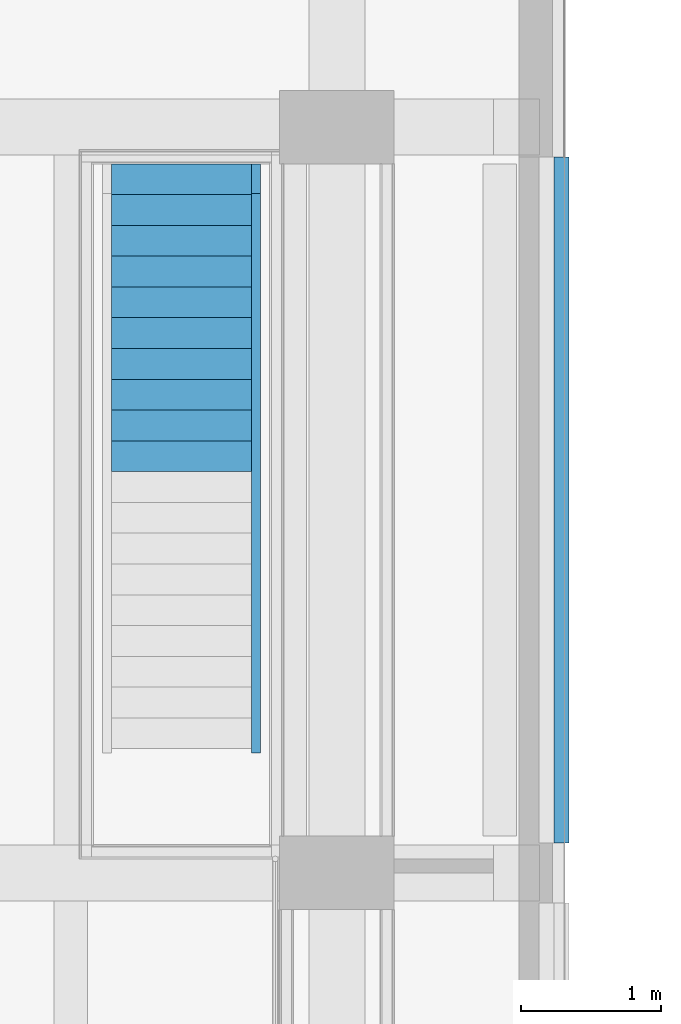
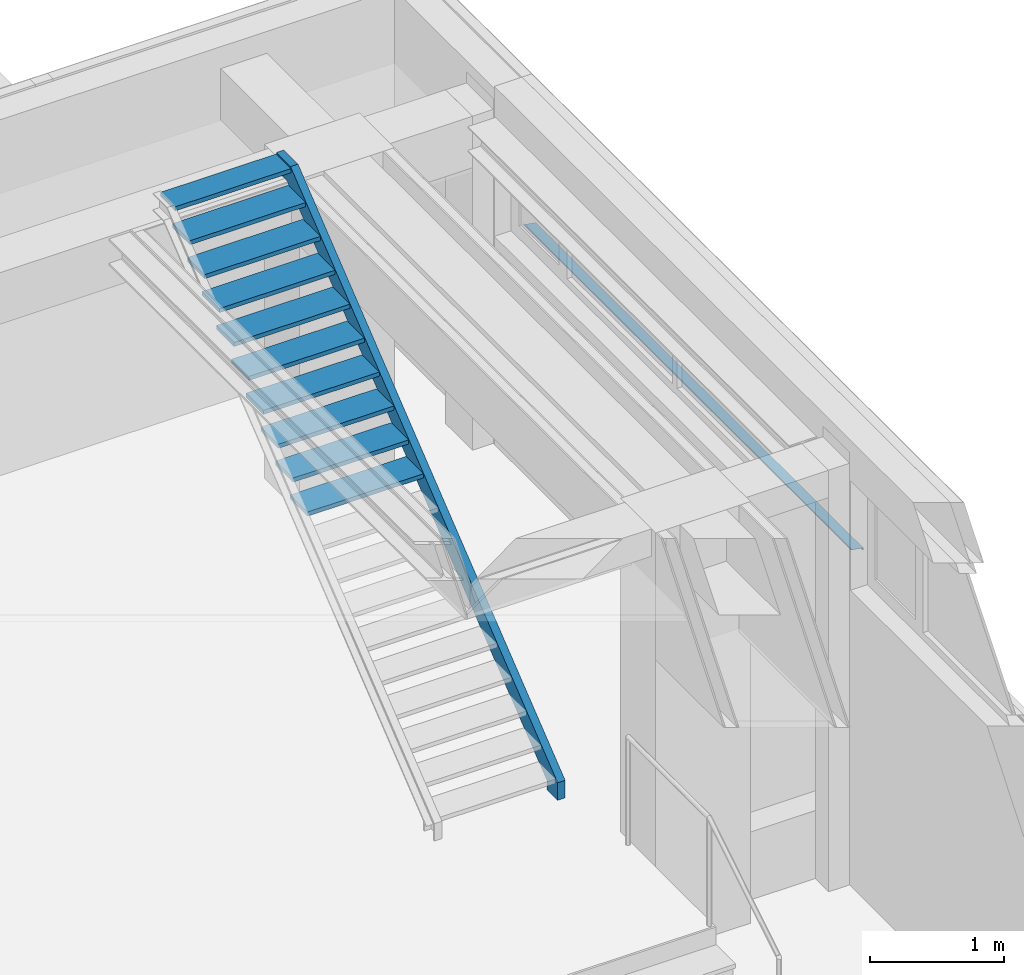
# One storey, part 66 of 135: 11 members, 1 beam, 1 element without a shape of its own.
"""IFC2X3 building model written with IfcOpenShell, lengths in millimetres."""

from ifc_helpers import new_model, entity, si_unit, converted_unit, derived_unit, money_unit, direction, frame, origin_with_axes, place, context, subcontext, project, spatial, faceted_brep, material, type_object, element, aggregate, save


model = new_model("IFC2X3")

# Units and contexts
model_context = context("Model", 3, precision=0.01, world=origin_with_axes(), true_north=direction((0.0, 1.0)))
body_context = subcontext(model_context, "Body", "Model", "MODEL_VIEW")
ifc_project = project(units=[si_unit("LENGTHUNIT", "METRE", prefix="MILLI"), si_unit("AREAUNIT", "SQUARE_METRE"), si_unit("VOLUMEUNIT", "CUBIC_METRE"), converted_unit("PLANEANGLEUNIT", "DEGREE", entity("IfcPlaneAngleMeasure", 0.0174532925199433), si_unit("PLANEANGLEUNIT", "RADIAN"), dimensions=[0, 0, 0, 0, 0, 0, 0]), money_unit("EUR"), converted_unit("TIMEUNIT", "Year", entity("IfcTimeMeasure", 31557600.0), si_unit("TIMEUNIT", "SECOND"), dimensions=[0, 0, 1, 0, 0, 0, 0]), si_unit("MASSUNIT", "GRAM", prefix="KILO"), si_unit("THERMODYNAMICTEMPERATUREUNIT", "DEGREE_CELSIUS"), si_unit("LUMINOUSINTENSITYUNIT", "LUMEN"), si_unit("ENERGYUNIT", "JOULE", prefix="MEGA"), derived_unit("THERMALCONDUCTANCEUNIT", [(si_unit("POWERUNIT", "WATT"), 1), (si_unit("LENGTHUNIT", "METRE"), -1), (si_unit("THERMODYNAMICTEMPERATUREUNIT", "KELVIN"), -1)]), derived_unit("SPECIFICHEATCAPACITYUNIT", [(si_unit("ENERGYUNIT", "JOULE"), 1), (si_unit("MASSUNIT", "GRAM", prefix="KILO"), -1), (si_unit("THERMODYNAMICTEMPERATUREUNIT", "KELVIN"), -1)]), derived_unit("MASSDENSITYUNIT", [(si_unit("MASSUNIT", "GRAM", prefix="KILO"), 1), (si_unit("VOLUMEUNIT", "CUBIC_METRE"), -1)])], contexts=[model_context])

# Site, building, storey
site_placement = place(None, origin_with_axes())
site = spatial("IfcSite", under=ifc_project, at=site_placement, Name="Site", CompositionType="ELEMENT")
building_placement = place(site_placement, origin_with_axes())
building = spatial("IfcBuilding", under=site, at=building_placement, Name="Naam gebouw", CompositionType="ELEMENT")
storey_placement = place(building_placement, origin_with_axes())
storey = spatial("IfcBuildingStorey", under=building, at=storey_placement, Name="Begane grond N", CompositionType="ELEMENT", Elevation=0.0)

# Beam
ifc_material_1 = material(Name="Metaal - Aluminium")
beam_type = type_object("IfcBeamType", Name="Lekdorpel 107 x 49", PredefinedType="BEAM")
beam_placement = place(storey_placement, frame((30236.0, 49490.91242510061, 2700.0), z_axis=(0.0, 0.0, 1.0), x_axis=(1.0, 0.0, 0.0)))
element("IfcBeam", 1, at=beam_placement, inside=storey, type_object=beam_type, material=ifc_material_1, Name="_Balk-x", ObjectType="BEAM", context=body_context, shape_type="Brep", body=[
    faceted_brep([(27.99999999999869, 0.0, -1.678199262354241), (27.99999999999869, 4899.999999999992, -1.678199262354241), (27.99999999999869, 4899.999999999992, -16.53589838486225), (27.99999999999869, 0.0, -16.53589838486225), (-77.00000000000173, 0.0, 16.83613371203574), (-77.00000000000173, 4899.999999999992, 16.83613371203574), (-77.00000000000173, 4899.999999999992, 28.51433297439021), (-74.99999999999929, 4899.999999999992, 28.51433297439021), (-74.99999999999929, 4899.999999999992, 18.51433297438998), (30.00000000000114, 4899.999999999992, 0.0), (30.00000000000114, 4899.999999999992, -20.00000000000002), (19.99999999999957, 4899.999999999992, -14.22649730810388), (19.99999999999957, 4899.999999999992, -11.91709623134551), (19.99999999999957, 0.0, -11.91709623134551), (19.99999999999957, 0.0, -14.22649730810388), (30.00000000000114, 0.0, -20.00000000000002), (30.00000000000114, 0.0, 0.0), (-74.99999999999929, 0.0, 18.51433297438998), (-74.99999999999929, 0.0, 28.51433297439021), (-77.00000000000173, 0.0, 28.51433297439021)], [[[0, 1, 2, 3]], [[4, 5, 1, 0]], [[2, 1, 5, 6, 7, 8, 9, 10, 11, 12]], [[3, 2, 12, 13]], [[4, 0, 3, 13, 14, 15, 16, 17, 18, 19]], [[19, 6, 5, 4]], [[18, 7, 6, 19]], [[17, 8, 7, 18]], [[16, 9, 8, 17]], [[15, 10, 9, 16]], [[14, 11, 10, 15]], [[13, 12, 11, 14]]]),
])

# Stair, members
stair_placement = place(storey_placement, frame((26995.99999999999, 50163.41242510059, 800.0), z_axis=(0.0, 0.0, 1.0), x_axis=(1.0, 0.0, 0.0)))
stair = element("IfcStair", 2, at=stair_placement, inside=storey, Name="_Trap-x", ShapeType="NOTDEFINED")
ifc_material_2 = material(Name="Metaal - Staal C")
member_type_1 = type_object("IfcMemberType", Name="IfcMember", PredefinedType="NOTDEFINED")
member_1_placement = place(stair_placement, origin_with_axes())
member_1 = element("IfcMember", 3, at=member_1_placement, type_object=member_type_1, material=ifc_material_2, Name="_Trapconstructie-x", context=body_context, shape_type="Brep", body=[
    faceted_brep([(1000.0, -30.00000000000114, 0.0), (1000.0, -30.00000000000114, 158.6803374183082), (1000.0, 130.0000000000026, 81.86647783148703), (1000.0, 130.0000000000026, 0.0), (1065.000000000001, -30.00000000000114, 0.0), (1065.000000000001, -30.00000000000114, 158.6803374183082), (1000.0, -3.126888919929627, 180.2174001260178), (1000.0, 96.9335565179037, 55.36585925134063), (1065.000000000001, 130.0000000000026, 81.86647783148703), (1065.000000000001, 130.0000000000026, 0.0), (1065.000000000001, 119.5000000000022, 0.0), (1007.5, 119.5000000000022, 0.0), (1007.5, -19.50000000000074, 0.0), (1065.000000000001, -19.50000000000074, 0.0), (1065.000000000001, -19.50000000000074, 153.6394278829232), (1065.000000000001, -3.126888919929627, 180.2174001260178), (1000.0, 216.8731110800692, 356.5331895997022), (1000.0, 316.9335565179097, 231.6816487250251), (1065.000000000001, 96.9335565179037, 55.36585925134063), (1065.000000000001, 119.5000000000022, 86.9073873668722), (1007.5, 119.5000000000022, 86.9073873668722), (1007.5, -19.50000000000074, 153.6394278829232), (1065.000000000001, 3.439577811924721, 172.0240177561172), (1065.000000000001, 216.8731110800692, 356.5331895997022), (1000.0, 436.8731110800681, 532.8489790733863), (1000.0, 536.9335565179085, 407.9974381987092), (1065.000000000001, 316.9335565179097, 231.6816487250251), (1065.000000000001, 90.36708978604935, 63.55924162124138), (1007.5, 90.36708978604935, 63.55924162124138), (1007.5, 3.439577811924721, 172.0240177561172), (1065.000000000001, 223.4395778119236, 348.3398072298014), (1065.000000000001, 436.8731110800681, 532.8489790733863), (1000.0, 656.873111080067, 709.1647685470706), (1000.0, 756.9335565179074, 584.3132276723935), (1065.000000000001, 536.9335565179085, 407.9974381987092), (1065.000000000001, 310.3670897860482, 239.8750310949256), (1007.5, 310.3670897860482, 239.8750310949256), (1007.5, 223.4395778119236, 348.3398072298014), (1065.000000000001, 443.4395778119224, 524.6555967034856), (1065.000000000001, 656.873111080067, 709.1647685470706), (1000.0, 876.8731110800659, 885.4805580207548), (1000.0, 976.9335565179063, 760.6290171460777), (1065.000000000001, 756.9335565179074, 584.3132276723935), (1065.000000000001, 530.367089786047, 416.19082056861), (1007.5, 530.367089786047, 416.19082056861), (1007.5, 443.4395778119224, 524.6555967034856), (1065.000000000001, 663.4395778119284, 700.9713861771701), (1065.000000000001, 876.8731110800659, 885.4805580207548), (1000.0, 1096.873111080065, 1061.796347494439), (1000.0, 1196.933556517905, 936.9448066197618), (1065.000000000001, 976.9335565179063, 760.6290171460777), (1065.000000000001, 750.3670897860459, 592.506610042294), (1007.5, 750.3670897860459, 592.506610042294), (1007.5, 663.4395778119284, 700.9713861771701), (1065.000000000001, 883.4395778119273, 877.287175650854), (1065.000000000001, 1096.873111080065, 1061.796347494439), (1000.0, 1316.873111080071, 1238.112136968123), (1000.0, 1416.933556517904, 1113.260596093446), (1065.000000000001, 1196.933556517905, 936.9448066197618), (1065.000000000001, 970.3670897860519, 768.8223995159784), (1007.5, 970.3670897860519, 768.8223995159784), (1007.5, 883.4395778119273, 877.287175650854), (1065.000000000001, 1103.439577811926, 1053.602965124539), (1065.000000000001, 1316.873111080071, 1238.112136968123), (1000.0, 1536.87311108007, 1414.427926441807), (1000.0, 1636.93355651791, 1289.57638556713), (1065.000000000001, 1416.933556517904, 1113.260596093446), (1065.000000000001, 1190.367089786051, 945.1381889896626), (1007.5, 1190.367089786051, 945.1381889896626), (1007.5, 1103.439577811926, 1053.602965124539), (1065.000000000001, 1323.439577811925, 1229.918754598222), (1065.000000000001, 1536.87311108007, 1414.427926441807), (1000.0, 1756.873111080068, 1590.743715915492), (1000.0, 1856.933556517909, 1465.892175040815), (1065.000000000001, 1636.93355651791, 1289.57638556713), (1065.000000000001, 1410.36708978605, 1121.453978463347), (1007.5, 1410.36708978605, 1121.453978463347), (1007.5, 1323.439577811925, 1229.918754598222), (1065.000000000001, 1543.439577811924, 1406.234544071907), (1065.000000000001, 1756.873111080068, 1590.743715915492), (1000.0, 1976.873111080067, 1767.059505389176), (1000.0, 2076.933556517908, 1642.207964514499), (1065.000000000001, 1856.933556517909, 1465.892175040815), (1065.000000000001, 1630.367089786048, 1297.769767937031), (1007.5, 1630.367089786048, 1297.769767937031), (1007.5, 1543.439577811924, 1406.234544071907), (1065.000000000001, 1763.439577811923, 1582.550333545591), (1065.000000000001, 1976.873111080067, 1767.059505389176), (1000.0, 2196.873111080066, 1943.37529486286), (1000.0, 2296.933556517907, 1818.523753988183), (1065.000000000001, 2076.933556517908, 1642.207964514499), (1065.000000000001, 1850.367089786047, 1474.085557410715), (1007.5, 1850.367089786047, 1474.085557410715), (1007.5, 1763.439577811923, 1582.550333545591), (1065.000000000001, 1983.439577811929, 1758.866123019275), (1065.000000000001, 2196.873111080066, 1943.37529486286), (1000.0, 2416.873111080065, 2119.691084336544), (1000.0, 2516.933556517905, 1994.839543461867), (1065.000000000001, 2296.933556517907, 1818.523753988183), (1065.000000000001, 2070.367089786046, 1650.4013468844), (1007.5, 2070.367089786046, 1650.4013468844), (1007.5, 1983.439577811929, 1758.866123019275), (1065.000000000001, 2203.439577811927, 1935.181912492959), (1065.000000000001, 2416.873111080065, 2119.691084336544), (1000.0, 2636.873111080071, 2296.006873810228), (1000.0, 2736.933556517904, 2171.155332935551), (1065.000000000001, 2516.933556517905, 1994.839543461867), (1065.000000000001, 2290.367089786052, 1826.717136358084), (1007.5, 2290.367089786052, 1826.717136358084), (1007.5, 2203.439577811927, 1935.181912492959), (1065.000000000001, 2423.439577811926, 2111.497701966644), (1065.000000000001, 2636.873111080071, 2296.006873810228), (1000.0, 2856.87311108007, 2472.322663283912), (1000.0, 2956.933556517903, 2347.471122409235), (1065.000000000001, 2736.933556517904, 2171.155332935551), (1065.000000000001, 2510.367089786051, 2003.032925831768), (1007.5, 2510.367089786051, 2003.032925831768), (1007.5, 2423.439577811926, 2111.497701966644), (1065.000000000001, 2643.439577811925, 2287.813491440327), (1065.000000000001, 2856.87311108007, 2472.322663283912), (1000.0, 3076.873111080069, 2648.638452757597), (1000.0, 3176.933556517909, 2523.78691188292), (1065.000000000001, 2956.933556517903, 2347.471122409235), (1065.000000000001, 2730.36708978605, 2179.348715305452), (1007.5, 2730.36708978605, 2179.348715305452), (1007.5, 2643.439577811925, 2287.813491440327), (1065.000000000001, 2863.439577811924, 2464.129280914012), (1065.000000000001, 3076.873111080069, 2648.638452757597), (1000.0, 3296.873111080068, 2824.954242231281), (1000.0, 3396.933556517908, 2700.102701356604), (1065.000000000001, 3176.933556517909, 2523.78691188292), (1065.000000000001, 2950.367089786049, 2355.664504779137), (1007.5, 2950.367089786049, 2355.664504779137), (1007.5, 2863.439577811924, 2464.129280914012), (1065.000000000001, 3083.439577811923, 2640.445070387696), (1065.000000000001, 3296.873111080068, 2824.954242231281), (1000.0, 3516.873111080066, 3001.270031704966), (1000.0, 3616.933556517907, 2876.418490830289), (1065.000000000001, 3396.933556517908, 2700.102701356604), (1065.000000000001, 3170.367089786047, 2531.98029425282), (1007.5, 3170.367089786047, 2531.98029425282), (1007.5, 3083.439577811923, 2640.445070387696), (1065.000000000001, 3303.439577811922, 2816.760859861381), (1065.000000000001, 3516.873111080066, 3001.270031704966), (1000.0, 3736.873111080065, 3177.585821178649), (1000.0, 3836.933556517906, 3052.734280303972), (1065.000000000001, 3616.933556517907, 2876.418490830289), (1065.000000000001, 3390.367089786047, 2708.296083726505), (1007.5, 3390.367089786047, 2708.296083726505), (1007.5, 3303.439577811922, 2816.760859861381), (1065.000000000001, 3523.439577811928, 2993.076649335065), (1065.000000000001, 3736.873111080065, 3177.585821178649), (1000.0, 3967.85139987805, 3362.7), (1000.0, 4024.054961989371, 3202.700000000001), (1065.000000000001, 3836.933556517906, 3052.734280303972), (1065.000000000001, 3610.367089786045, 2884.611873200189), (1007.5, 3610.367089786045, 2884.611873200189), (1007.5, 3523.439577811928, 2993.076649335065), (1065.000000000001, 3743.439577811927, 3169.392438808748), (1065.000000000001, 3967.85139987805, 3362.7), (1000.0, 4180.0, 3362.7), (1000.0, 4180.0, 3202.7), (1065.000000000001, 4024.054961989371, 3202.700000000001), (1065.000000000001, 3830.367089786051, 3060.927662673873), (1007.5, 3830.367089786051, 3060.927662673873), (1007.5, 3743.439577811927, 3169.392438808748), (1065.000000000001, 3971.539758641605, 3352.200000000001), (1065.000000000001, 4180.0, 3362.7), (1065.000000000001, 4180.0, 3352.200000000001), (1007.5, 4180.0, 3352.200000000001), (1007.5, 4180.0, 3213.200000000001), (1065.000000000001, 4180.0, 3213.200000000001), (1065.000000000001, 4180.0, 3202.7), (1065.000000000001, 4020.36660322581, 3213.200000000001), (1007.5, 4020.36660322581, 3213.200000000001), (1007.5, 3971.539758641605, 3352.200000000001)], [[[0, 1, 2, 3]], [[4, 5, 1, 0]], [[2, 1, 6, 7]], [[3, 2, 8, 9]], [[3, 9, 10, 11, 12, 13, 4, 0]], [[13, 14, 5, 4]], [[1, 5, 15, 6]], [[7, 6, 16, 17]], [[8, 2, 7, 18]], [[9, 8, 19, 10]], [[10, 19, 20, 11]], [[11, 20, 21, 12]], [[12, 21, 14, 13]], [[5, 14, 22, 15]], [[6, 15, 23, 16]], [[17, 16, 24, 25]], [[18, 7, 17, 26]], [[19, 8, 18, 27]], [[20, 19, 27, 28]], [[21, 20, 28, 29]], [[14, 21, 29, 22]], [[15, 22, 30, 23]], [[16, 23, 31, 24]], [[25, 24, 32, 33]], [[26, 17, 25, 34]], [[27, 18, 26, 35]], [[28, 27, 35, 36]], [[29, 28, 36, 37]], [[22, 29, 37, 30]], [[23, 30, 38, 31]], [[24, 31, 39, 32]], [[33, 32, 40, 41]], [[34, 25, 33, 42]], [[35, 26, 34, 43]], [[36, 35, 43, 44]], [[37, 36, 44, 45]], [[30, 37, 45, 38]], [[31, 38, 46, 39]], [[32, 39, 47, 40]], [[41, 40, 48, 49]], [[42, 33, 41, 50]], [[43, 34, 42, 51]], [[44, 43, 51, 52]], [[45, 44, 52, 53]], [[38, 45, 53, 46]], [[39, 46, 54, 47]], [[40, 47, 55, 48]], [[49, 48, 56, 57]], [[50, 41, 49, 58]], [[51, 42, 50, 59]], [[52, 51, 59, 60]], [[53, 52, 60, 61]], [[46, 53, 61, 54]], [[47, 54, 62, 55]], [[48, 55, 63, 56]], [[57, 56, 64, 65]], [[58, 49, 57, 66]], [[59, 50, 58, 67]], [[60, 59, 67, 68]], [[61, 60, 68, 69]], [[54, 61, 69, 62]], [[55, 62, 70, 63]], [[56, 63, 71, 64]], [[65, 64, 72, 73]], [[66, 57, 65, 74]], [[67, 58, 66, 75]], [[68, 67, 75, 76]], [[69, 68, 76, 77]], [[62, 69, 77, 70]], [[63, 70, 78, 71]], [[64, 71, 79, 72]], [[73, 72, 80, 81]], [[74, 65, 73, 82]], [[75, 66, 74, 83]], [[76, 75, 83, 84]], [[77, 76, 84, 85]], [[70, 77, 85, 78]], [[71, 78, 86, 79]], [[72, 79, 87, 80]], [[81, 80, 88, 89]], [[82, 73, 81, 90]], [[83, 74, 82, 91]], [[84, 83, 91, 92]], [[85, 84, 92, 93]], [[78, 85, 93, 86]], [[79, 86, 94, 87]], [[80, 87, 95, 88]], [[89, 88, 96, 97]], [[90, 81, 89, 98]], [[91, 82, 90, 99]], [[92, 91, 99, 100]], [[93, 92, 100, 101]], [[86, 93, 101, 94]], [[87, 94, 102, 95]], [[88, 95, 103, 96]], [[97, 96, 104, 105]], [[98, 89, 97, 106]], [[99, 90, 98, 107]], [[100, 99, 107, 108]], [[101, 100, 108, 109]], [[94, 101, 109, 102]], [[95, 102, 110, 103]], [[96, 103, 111, 104]], [[105, 104, 112, 113]], [[106, 97, 105, 114]], [[107, 98, 106, 115]], [[108, 107, 115, 116]], [[109, 108, 116, 117]], [[102, 109, 117, 110]], [[103, 110, 118, 111]], [[104, 111, 119, 112]], [[113, 112, 120, 121]], [[114, 105, 113, 122]], [[115, 106, 114, 123]], [[116, 115, 123, 124]], [[117, 116, 124, 125]], [[110, 117, 125, 118]], [[111, 118, 126, 119]], [[112, 119, 127, 120]], [[121, 120, 128, 129]], [[122, 113, 121, 130]], [[123, 114, 122, 131]], [[124, 123, 131, 132]], [[125, 124, 132, 133]], [[118, 125, 133, 126]], [[119, 126, 134, 127]], [[120, 127, 135, 128]], [[129, 128, 136, 137]], [[130, 121, 129, 138]], [[131, 122, 130, 139]], [[132, 131, 139, 140]], [[133, 132, 140, 141]], [[126, 133, 141, 134]], [[127, 134, 142, 135]], [[128, 135, 143, 136]], [[137, 136, 144, 145]], [[138, 129, 137, 146]], [[139, 130, 138, 147]], [[140, 139, 147, 148]], [[141, 140, 148, 149]], [[134, 141, 149, 142]], [[135, 142, 150, 143]], [[136, 143, 151, 144]], [[145, 144, 152, 153]], [[146, 137, 145, 154]], [[147, 138, 146, 155]], [[148, 147, 155, 156]], [[149, 148, 156, 157]], [[142, 149, 157, 150]], [[143, 150, 158, 151]], [[144, 151, 159, 152]], [[153, 152, 160, 161]], [[154, 145, 153, 162]], [[155, 146, 154, 163]], [[156, 155, 163, 164]], [[157, 156, 164, 165]], [[150, 157, 165, 158]], [[151, 158, 166, 159]], [[152, 159, 167, 160]], [[161, 160, 167, 168, 169, 170, 171, 172]], [[162, 153, 161, 172]], [[163, 154, 162, 173]], [[164, 163, 173, 174]], [[165, 164, 174, 175]], [[158, 165, 175, 166]], [[159, 166, 168, 167]], [[166, 175, 169, 168]], [[175, 174, 170, 169]], [[174, 173, 171, 170]], [[173, 162, 172, 171]]]),
])
member_type_2 = type_object("IfcMemberType", Name="IfcMember", PredefinedType="USERDEFINED")
member_2_placement = place(stair_placement, frame((500.0, 1979.999999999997, 1763.157894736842), z_axis=(0.0, 0.0, 1.0), x_axis=(1.0, 0.0, 0.0)))
member_2 = element("IfcMember", 4, at=member_2_placement, type_object=member_type_2, material=ifc_material_2, Name="_Traptrede-x", context=body_context, shape_type="Brep", body=[
    faceted_brep([(-500.0, 0.0, -38.0), (500.0, 0.0, -38.0), (500.0, 0.0, 0.0), (-500.0, 0.0, 0.0), (-500.0, 259.9999999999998, -38.0), (500.0, 259.9999999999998, -38.0), (500.0, 259.9999999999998, 0.0), (-500.0, 259.9999999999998, 0.0)], [[[0, 1, 2, 3]], [[0, 4, 5, 1]], [[1, 5, 6, 2]], [[3, 2, 6, 7]], [[4, 0, 3, 7]], [[5, 4, 7, 6]]]),
])
member_3_placement = place(stair_placement, frame((500.0, 2200.000000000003, 1939.473684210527), z_axis=(0.0, 0.0, 1.0), x_axis=(1.0, 0.0, 0.0)))
member_3 = element("IfcMember", 5, at=member_3_placement, type_object=member_type_2, material=ifc_material_2, Name="_Traptrede-x", context=body_context, shape_type="Brep", body=[
    faceted_brep([(-500.0, 0.0, -38.0), (500.0, 0.0, -38.0), (500.0, 0.0, 0.0), (-500.0, 0.0, 0.0), (-500.0, 259.9999999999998, -38.0), (500.0, 259.9999999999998, -38.0), (500.0, 259.9999999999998, 0.0), (-500.0, 259.9999999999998, 0.0)], [[[0, 1, 2, 3]], [[0, 4, 5, 1]], [[1, 5, 6, 2]], [[3, 2, 6, 7]], [[4, 0, 3, 7]], [[5, 4, 7, 6]]]),
])
member_4_placement = place(stair_placement, frame((500.0, 2420.000000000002, 2115.789473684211), z_axis=(0.0, 0.0, 1.0), x_axis=(1.0, 0.0, 0.0)))
member_4 = element("IfcMember", 6, at=member_4_placement, type_object=member_type_2, material=ifc_material_2, Name="_Traptrede-x", context=body_context, shape_type="Brep", body=[
    faceted_brep([(-500.0, 0.0, -38.0), (500.0, 0.0, -38.0), (500.0, 0.0, 0.0), (-500.0, 0.0, 0.0), (-500.0, 259.9999999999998, -38.0), (500.0, 259.9999999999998, -38.0), (500.0, 259.9999999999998, 0.0), (-500.0, 259.9999999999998, 0.0)], [[[0, 1, 2, 3]], [[0, 4, 5, 1]], [[1, 5, 6, 2]], [[3, 2, 6, 7]], [[4, 0, 3, 7]], [[5, 4, 7, 6]]]),
])
member_5_placement = place(stair_placement, frame((500.0, 2640.0, 2292.105263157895), z_axis=(0.0, 0.0, 1.0), x_axis=(1.0, 0.0, 0.0)))
member_5 = element("IfcMember", 7, at=member_5_placement, type_object=member_type_2, material=ifc_material_2, Name="_Traptrede-x", context=body_context, shape_type="Brep", body=[
    faceted_brep([(-500.0, 0.0, -38.0), (500.0, 0.0, -38.0), (500.0, 0.0, 0.0), (-500.0, 0.0, 0.0), (-500.0, 259.9999999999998, -38.0), (500.0, 259.9999999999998, -38.0), (500.0, 259.9999999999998, 0.0), (-500.0, 259.9999999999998, 0.0)], [[[0, 1, 2, 3]], [[0, 4, 5, 1]], [[1, 5, 6, 2]], [[3, 2, 6, 7]], [[4, 0, 3, 7]], [[5, 4, 7, 6]]]),
])
member_6_placement = place(stair_placement, frame((500.0, 2860.0, 2468.421052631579), z_axis=(0.0, 0.0, 1.0), x_axis=(1.0, 0.0, 0.0)))
member_6 = element("IfcMember", 8, at=member_6_placement, type_object=member_type_2, material=ifc_material_2, Name="_Traptrede-x", context=body_context, shape_type="Brep", body=[
    faceted_brep([(-500.0, 0.0, -38.0), (500.0, 0.0, -38.0), (500.0, 0.0, 0.0), (-500.0, 0.0, 0.0), (-500.0, 259.9999999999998, -38.0), (500.0, 259.9999999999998, -38.0), (500.0, 259.9999999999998, 0.0), (-500.0, 259.9999999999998, 0.0)], [[[0, 1, 2, 3]], [[0, 4, 5, 1]], [[1, 5, 6, 2]], [[3, 2, 6, 7]], [[4, 0, 3, 7]], [[5, 4, 7, 6]]]),
])
member_7_placement = place(stair_placement, frame((500.0, 3079.999999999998, 2644.736842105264), z_axis=(0.0, 0.0, 1.0), x_axis=(1.0, 0.0, 0.0)))
member_7 = element("IfcMember", 9, at=member_7_placement, type_object=member_type_2, material=ifc_material_2, Name="_Traptrede-x", context=body_context, shape_type="Brep", body=[
    faceted_brep([(-500.0, 0.0, -38.0), (500.0, 0.0, -38.0), (500.0, 0.0, 0.0), (-500.0, 0.0, 0.0), (-500.0, 259.9999999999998, -38.0), (500.0, 259.9999999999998, -38.0), (500.0, 259.9999999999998, 0.0), (-500.0, 259.9999999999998, 0.0)], [[[0, 1, 2, 3]], [[0, 4, 5, 1]], [[1, 5, 6, 2]], [[3, 2, 6, 7]], [[4, 0, 3, 7]], [[5, 4, 7, 6]]]),
])
member_8_placement = place(stair_placement, frame((500.0, 3299.999999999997, 2821.052631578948), z_axis=(0.0, 0.0, 1.0), x_axis=(1.0, 0.0, 0.0)))
member_8 = element("IfcMember", 10, at=member_8_placement, type_object=member_type_2, material=ifc_material_2, Name="_Traptrede-x", context=body_context, shape_type="Brep", body=[
    faceted_brep([(-500.0, 0.0, -38.0), (500.0, 0.0, -38.0), (500.0, 0.0, 0.0), (-500.0, 0.0, 0.0), (-500.0, 259.9999999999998, -38.0), (500.0, 259.9999999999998, -38.0), (500.0, 259.9999999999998, 0.0), (-500.0, 259.9999999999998, 0.0)], [[[0, 1, 2, 3]], [[0, 4, 5, 1]], [[1, 5, 6, 2]], [[3, 2, 6, 7]], [[4, 0, 3, 7]], [[5, 4, 7, 6]]]),
])
member_9_placement = place(stair_placement, frame((500.0, 3520.000000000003, 2997.368421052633), z_axis=(0.0, 0.0, 1.0), x_axis=(1.0, 0.0, 0.0)))
member_9 = element("IfcMember", 11, at=member_9_placement, type_object=member_type_2, material=ifc_material_2, Name="_Traptrede-x", context=body_context, shape_type="Brep", body=[
    faceted_brep([(-500.0, 0.0, -38.0), (500.0, 0.0, -38.0), (500.0, 0.0, 0.0), (-500.0, 0.0, 0.0), (-500.0, 259.9999999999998, -38.0), (500.0, 259.9999999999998, -38.0), (500.0, 259.9999999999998, 0.0), (-500.0, 259.9999999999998, 0.0)], [[[0, 1, 2, 3]], [[0, 4, 5, 1]], [[1, 5, 6, 2]], [[3, 2, 6, 7]], [[4, 0, 3, 7]], [[5, 4, 7, 6]]]),
])
member_10_placement = place(stair_placement, frame((500.0, 3740.000000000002, 3173.684210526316), z_axis=(0.0, 0.0, 1.0), x_axis=(1.0, 0.0, 0.0)))
member_10 = element("IfcMember", 12, at=member_10_placement, type_object=member_type_2, material=ifc_material_2, Name="_Traptrede-x", context=body_context, shape_type="Brep", body=[
    faceted_brep([(-500.0, 0.0, -38.0), (500.0, 0.0, -38.0), (500.0, 0.0, 0.0), (-500.0, 0.0, 0.0), (-500.0, 259.9999999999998, -38.0), (500.0, 259.9999999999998, -38.0), (500.0, 259.9999999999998, 0.0), (-500.0, 259.9999999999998, 0.0)], [[[0, 1, 2, 3]], [[0, 4, 5, 1]], [[1, 5, 6, 2]], [[3, 2, 6, 7]], [[4, 0, 3, 7]], [[5, 4, 7, 6]]]),
])
member_11_placement = place(stair_placement, frame((500.0, 3960.000000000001, 3350.0), z_axis=(0.0, 0.0, 1.0), x_axis=(1.0, 0.0, 0.0)))
member_11 = element("IfcMember", 13, at=member_11_placement, type_object=member_type_2, material=ifc_material_2, Name="_Traptrede-x", context=body_context, shape_type="Brep", body=[
    faceted_brep([(-500.0, 0.0, -38.0), (500.0, 0.0, -38.0), (500.0, 0.0, 0.0), (-500.0, 0.0, 0.0), (-500.0, 219.999999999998, -38.0), (500.0, 219.999999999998, -38.0), (500.0, 219.999999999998, 0.0), (-500.0, 219.999999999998, 0.0)], [[[0, 1, 2, 3]], [[0, 4, 5, 1]], [[1, 5, 6, 2]], [[3, 2, 6, 7]], [[4, 0, 3, 7]], [[5, 4, 7, 6]]]),
])
aggregate(stair, [member_1, member_2, member_3, member_4, member_5, member_6, member_7, member_8, member_9, member_10, member_11])

save(model, "model.ifc")
